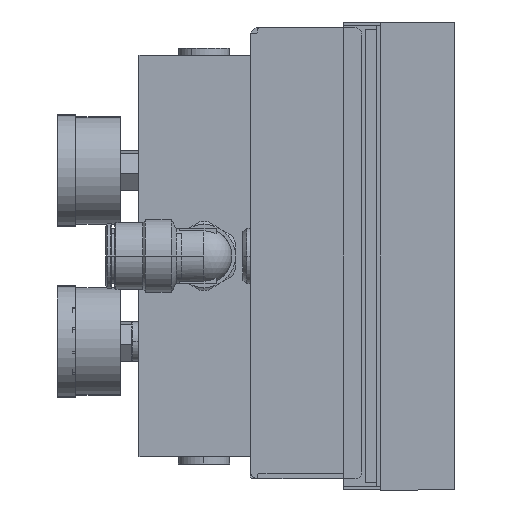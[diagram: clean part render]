
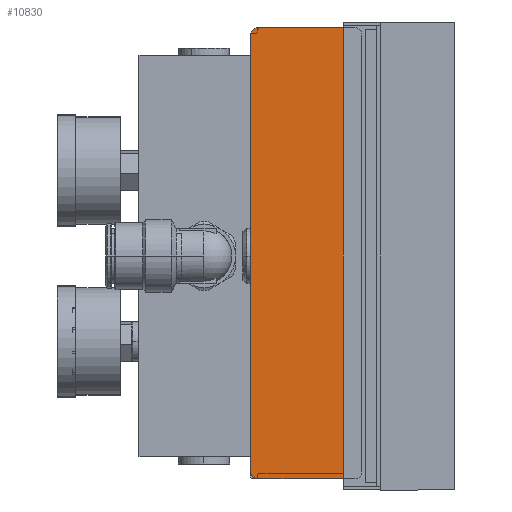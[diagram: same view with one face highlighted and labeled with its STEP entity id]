
A CAD part, left-side view. The second image highlights one B-rep face of the part: STEP entity #10830.
In plain terms, the highlighted planar face has unit normal (-1, 0, 0).
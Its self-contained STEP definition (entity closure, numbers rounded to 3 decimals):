
#476 = CARTESIAN_POINT ( 'NONE',  ( -600., 13., 61.5 ) ) ;
#485 = CARTESIAN_POINT ( 'NONE',  ( -600., 13., -60. ) ) ;
#498 = CARTESIAN_POINT ( 'NONE',  ( -600., 15., -58. ) ) ;
#499 = CARTESIAN_POINT ( 'NONE',  ( -600., -15., 59.5 ) ) ;
#500 = CARTESIAN_POINT ( 'NONE',  ( -600., -15., -58. ) ) ;
#506 = CARTESIAN_POINT ( 'NONE',  ( -600., 15., 59.5 ) ) ;
#509 = CARTESIAN_POINT ( 'NONE',  ( -600., -13., -60. ) ) ;
#521 = CARTESIAN_POINT ( 'NONE',  ( -600., -13., 61.5 ) ) ;
#10830 = ADVANCED_FACE ( 'NONE', ( #45873 ), #75784, .T. ) ;
#25300 = EDGE_LOOP ( 'NONE', ( #67312, #67313, #67344, #67311, #67342, #67343, #67340, #67341 ) ) ;
#35156 = LINE ( 'NONE', #44915, #35158 ) ;
#35158 = VECTOR ( 'NONE', #44911, 1000. ) ;
#35170 = LINE ( 'NONE', #44939, #35177 ) ;
#35177 = VECTOR ( 'NONE', #44947, 1000. ) ;
#35192 = LINE ( 'NONE', #44973, #35196 ) ;
#35196 = VECTOR ( 'NONE', #44972, 1000. ) ;
#35208 = LINE ( 'NONE', #44997, #35211 ) ;
#35211 = VECTOR ( 'NONE', #44998, 1000. ) ;
#37567 = AXIS2_PLACEMENT_3D ( 'NONE', #75841, #75844, #75852 ) ;
#44911 = DIRECTION ( 'NONE',  ( 0., -1., 0. ) ) ;
#44915 = CARTESIAN_POINT ( 'NONE',  ( -600., -15., 61.5 ) ) ;
#44939 = CARTESIAN_POINT ( 'NONE',  ( -600., -15., 61.5 ) ) ;
#44947 = DIRECTION ( 'NONE',  ( 0., 0., -1. ) ) ;
#44972 = DIRECTION ( 'NONE',  ( 0., 1., 0. ) ) ;
#44973 = CARTESIAN_POINT ( 'NONE',  ( -600., -15., -60. ) ) ;
#44997 = CARTESIAN_POINT ( 'NONE',  ( -600., 15., 61.5 ) ) ;
#44998 = DIRECTION ( 'NONE',  ( 0., 0., 1. ) ) ;
#45108 = CARTESIAN_POINT ( 'NONE',  ( -600., 13., 59.5 ) ) ;
#45109 = DIRECTION ( 'NONE',  ( -1., 0., 0. ) ) ;
#45110 = DIRECTION ( 'NONE',  ( 0., 0., 1. ) ) ;
#45111 = CARTESIAN_POINT ( 'NONE',  ( -600., -13., 59.5 ) ) ;
#45112 = DIRECTION ( 'NONE',  ( -1., 0., 0. ) ) ;
#45113 = DIRECTION ( 'NONE',  ( 0., 0., 1. ) ) ;
#45118 = CARTESIAN_POINT ( 'NONE',  ( -600., 13., -58. ) ) ;
#45119 = DIRECTION ( 'NONE',  ( -1., 0., 0. ) ) ;
#45120 = DIRECTION ( 'NONE',  ( 0., 0., 1. ) ) ;
#45129 = CARTESIAN_POINT ( 'NONE',  ( -600., -13., -58. ) ) ;
#45130 = DIRECTION ( 'NONE',  ( -1., 0., 0. ) ) ;
#45131 = DIRECTION ( 'NONE',  ( 0., 0., 1. ) ) ;
#45470 = CIRCLE ( 'NONE', #58008, 2. ) ;
#45477 = CIRCLE ( 'NONE', #58009, 2. ) ;
#45480 = CIRCLE ( 'NONE', #58011, 2. ) ;
#45493 = CIRCLE ( 'NONE', #58014, 2. ) ;
#45873 = FACE_OUTER_BOUND ( 'NONE', #25300, .T. ) ;
#51696 = VERTEX_POINT ( 'NONE', #476 ) ;
#51702 = VERTEX_POINT ( 'NONE', #485 ) ;
#51711 = VERTEX_POINT ( 'NONE', #498 ) ;
#51713 = VERTEX_POINT ( 'NONE', #499 ) ;
#51715 = VERTEX_POINT ( 'NONE', #500 ) ;
#51731 = VERTEX_POINT ( 'NONE', #506 ) ;
#51741 = VERTEX_POINT ( 'NONE', #509 ) ;
#51763 = VERTEX_POINT ( 'NONE', #521 ) ;
#53298 = EDGE_CURVE ( 'NONE', #51696, #51763, #35156, .T. ) ;
#53310 = EDGE_CURVE ( 'NONE', #51713, #51715, #35170, .T. ) ;
#53322 = EDGE_CURVE ( 'NONE', #51741, #51702, #35192, .T. ) ;
#53331 = EDGE_CURVE ( 'NONE', #51711, #51731, #35208, .T. ) ;
#53388 = EDGE_CURVE ( 'NONE', #51696, #51731, #45470, .T. ) ;
#53391 = EDGE_CURVE ( 'NONE', #51713, #51763, #45477, .T. ) ;
#53393 = EDGE_CURVE ( 'NONE', #51711, #51702, #45480, .T. ) ;
#53399 = EDGE_CURVE ( 'NONE', #51741, #51715, #45493, .T. ) ;
#58008 = AXIS2_PLACEMENT_3D ( 'NONE', #45108, #45109, #45110 ) ;
#58009 = AXIS2_PLACEMENT_3D ( 'NONE', #45111, #45112, #45113 ) ;
#58011 = AXIS2_PLACEMENT_3D ( 'NONE', #45118, #45119, #45120 ) ;
#58014 = AXIS2_PLACEMENT_3D ( 'NONE', #45129, #45130, #45131 ) ;
#67311 = ORIENTED_EDGE ( 'NONE', *, *, #53399, .T. ) ;
#67312 = ORIENTED_EDGE ( 'NONE', *, *, #53331, .F. ) ;
#67313 = ORIENTED_EDGE ( 'NONE', *, *, #53393, .T. ) ;
#67340 = ORIENTED_EDGE ( 'NONE', *, *, #53298, .F. ) ;
#67341 = ORIENTED_EDGE ( 'NONE', *, *, #53388, .T. ) ;
#67342 = ORIENTED_EDGE ( 'NONE', *, *, #53310, .F. ) ;
#67343 = ORIENTED_EDGE ( 'NONE', *, *, #53391, .T. ) ;
#67344 = ORIENTED_EDGE ( 'NONE', *, *, #53322, .F. ) ;
#75784 = PLANE ( 'NONE',  #37567 ) ;
#75841 = CARTESIAN_POINT ( 'NONE',  ( -600., 15., 61.5 ) ) ;
#75844 = DIRECTION ( 'NONE',  ( -1., 0., 0. ) ) ;
#75852 = DIRECTION ( 'NONE',  ( 0., 0., 1. ) ) ;
